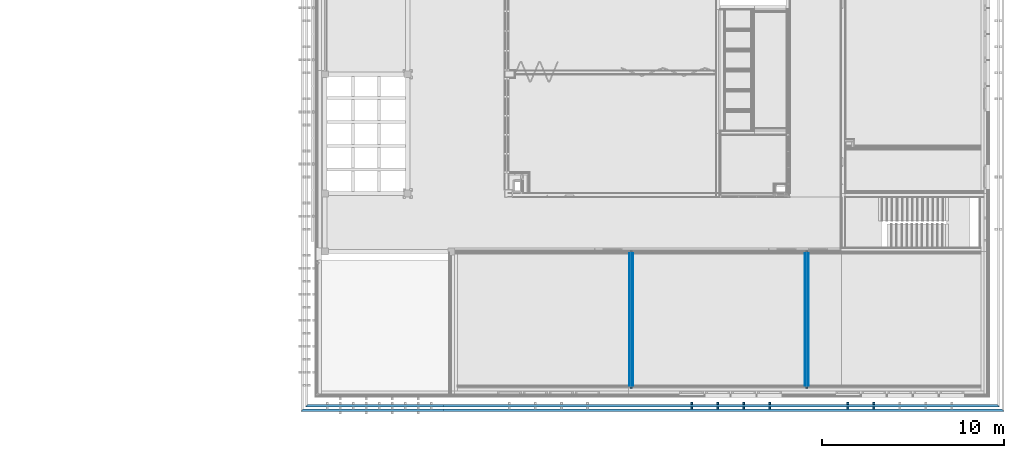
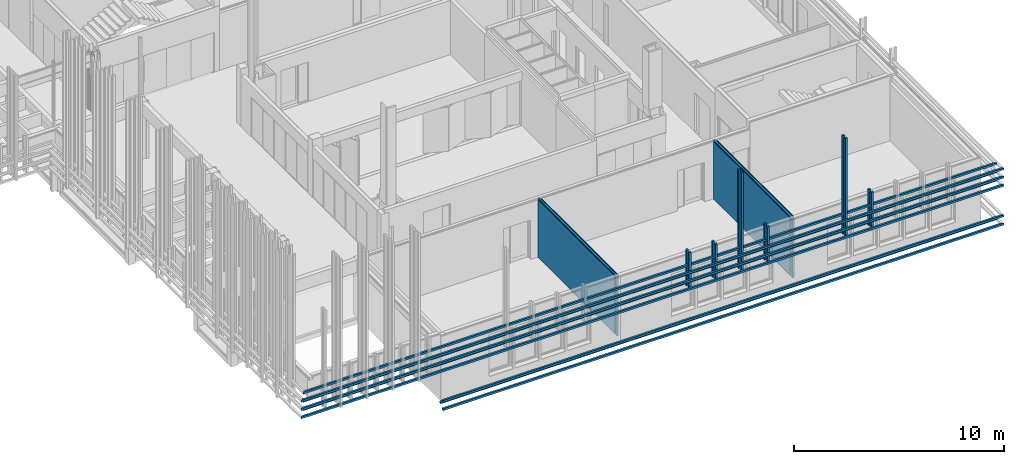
# One storey, part 107 of 139: 18 building element parts, 11 discrete accessories, 2 elements without a shape of their own.
"""IFC2X3 building model written with IfcOpenShell, lengths in millimetres."""

from ifc_helpers import new_model, entity, si_unit, converted_unit, derived_unit, money_unit, direction, frame, origin_with_axes, place, context, subcontext, project, spatial, faceted_brep, material, material_list, type_object, element, aggregate, save


model = new_model("IFC2X3")

# Units and contexts
model_context = context("Model", 3, precision=0.01, world=origin_with_axes(), true_north=direction((0.0, 1.0)))
body_context = subcontext(model_context, "Body", "Model", "MODEL_VIEW")
ifc_project = project(units=[si_unit("LENGTHUNIT", "METRE", prefix="MILLI"), si_unit("AREAUNIT", "SQUARE_METRE"), si_unit("VOLUMEUNIT", "CUBIC_METRE"), converted_unit("PLANEANGLEUNIT", "DEGREE", entity("IfcPlaneAngleMeasure", 0.0174532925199), si_unit("PLANEANGLEUNIT", "RADIAN"), dimensions=[0, 0, 0, 0, 0, 0, 0]), money_unit("EUR"), converted_unit("TIMEUNIT", "Year", entity("IfcTimeMeasure", 31556926.0), si_unit("TIMEUNIT", "SECOND"), dimensions=[0, 0, 1, 0, 0, 0, 0]), si_unit("MASSUNIT", "GRAM", prefix="KILO"), si_unit("THERMODYNAMICTEMPERATUREUNIT", "DEGREE_CELSIUS"), si_unit("LUMINOUSINTENSITYUNIT", "LUMEN"), si_unit("ENERGYUNIT", "JOULE", prefix="MEGA"), derived_unit("THERMALCONDUCTANCEUNIT", [(si_unit("POWERUNIT", "WATT"), 1), (si_unit("LENGTHUNIT", "METRE"), -1), (si_unit("THERMODYNAMICTEMPERATUREUNIT", "KELVIN"), -1)]), derived_unit("SPECIFICHEATCAPACITYUNIT", [(si_unit("ENERGYUNIT", "JOULE"), 1), (si_unit("MASSUNIT", "GRAM", prefix="KILO"), -1), (si_unit("THERMODYNAMICTEMPERATUREUNIT", "KELVIN"), -1)]), derived_unit("MASSDENSITYUNIT", [(si_unit("MASSUNIT", "GRAM", prefix="KILO"), 1), (si_unit("VOLUMEUNIT", "CUBIC_METRE"), -1)])], contexts=[model_context])

# Site, building, storey
site_placement = place(None, origin_with_axes())
site = spatial("IfcSite", under=ifc_project, at=site_placement, Name="Kolde pst 67a", CompositionType="ELEMENT")
building_placement = place(site_placement, origin_with_axes())
building = spatial("IfcBuilding", under=site, at=building_placement, Name="Riigigümnaasium", CompositionType="ELEMENT")
storey_placement = place(building_placement, frame((0.0, 0.0, 4600.0), z_axis=(0.0, 0.0, 1.0), x_axis=(1.0, 0.0, 0.0)))
storey = spatial("IfcBuildingStorey", under=building, at=storey_placement, Name="2. korrus", CompositionType="ELEMENT", Elevation=4600.0)

# Discrete accessories
ifc_material_1 = material(Name="_VÄLISVIIMISTLUS - sõrmjätkatud puitprussid 120x115mm, liitekohad vähemärgatavad, Platowood sõrmjätkatud kuusk või samaväärne; eeltöödeldud tuletõkkevõõbaga, tuletundlikkus B-s1, d0, Woodsafe Exterior WFX™ või samaväärne; kinnitused vastavalt EK osale")
ifc_material_list = material_list([ifc_material_1, ifc_material_1])
discrete_accessory_type_1 = type_object("IfcDiscreteAccessoryType", Name="1+paiksekaitse 4 tk nihkes 2 370 x 355")
discrete_accessory_1_placement = place(storey_placement, frame((47675.0262866, -325.000899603, 3110.0), z_axis=(0.0, 0.0, 1.0), x_axis=(4.18719809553e-07, -1.0, 0.0)))
element("IfcDiscreteAccessory", 1, at=discrete_accessory_1_placement, inside=storey, type_object=discrete_accessory_type_1, material=ifc_material_list, Name="Päikesevarjestus", context=body_context, shape_type="Brep", body=[
    faceted_brep([(375.0, 37505.0148804, 347.001360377), (375.0, -374.999488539, 347.001360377), (495.0, -494.999324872, 357.5), (495.0, 37625.0148154, 357.5), (375.0, 37505.0148804, 242.5), (375.0, -374.999488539, 242.5), (495.0, -494.999324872, 242.5), (495.0, 37625.0148154, 242.5)], [[[0, 1, 2, 3]], [[4, 5, 1, 0]], [[5, 6, 2, 1]], [[3, 2, 6, 7]], [[4, 0, 3, 7]], [[7, 6, 5, 4]]]),
    faceted_brep([(625.0, 37755.0147449, 107.001360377), (625.0, -624.999147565, 107.001360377), (745.0, -744.998983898, 117.5), (745.0, 37875.0146799, 117.5), (625.0, 37755.0147449, 2.5), (625.0, -624.999147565, 2.5), (745.0, -744.998983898, 2.5), (745.0, 37875.0146799, 2.5)], [[[0, 1, 2, 3]], [[4, 5, 1, 0]], [[5, 6, 2, 1]], [[3, 2, 6, 7]], [[4, 0, 3, 7]], [[7, 6, 5, 4]]]),
])
discrete_accessory_2_placement = place(storey_placement, frame((54739.1301946, -325.005231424, -100.0), z_axis=(0.0, 0.0, 1.0), x_axis=(2.51660926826e-07, -1.0, 0.0)))
element("IfcDiscreteAccessory", 2, at=discrete_accessory_2_placement, inside=storey, type_object=discrete_accessory_type_1, material=ifc_material_list, Name="Päikesevarjestus", context=body_context, shape_type="Brep", body=[
    faceted_brep([(375.0, 30440.911035, 347.001360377), (375.0, 0.0, 347.001360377), (495.0, 0.0, 357.5), (495.0, 30560.9109901, 357.5), (375.0, 30440.911035, 242.5), (375.0, 0.0, 242.5), (495.0, 0.0, 242.5), (495.0, 30560.9109901, 242.5)], [[[0, 1, 2, 3]], [[4, 5, 1, 0]], [[5, 6, 2, 1]], [[3, 2, 6, 7]], [[4, 0, 3, 7]], [[7, 6, 5, 4]]]),
    faceted_brep([(625.0, 30690.9109413, 107.001360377), (625.0, 0.0, 107.001360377), (745.0, 0.0, 117.5), (745.0, 30810.9108963, 117.5), (625.0, 30690.9109413, 2.5), (625.0, 0.0, 2.5), (745.0, 0.0, 2.5), (745.0, 30810.9108963, 2.5)], [[[0, 1, 2, 3]], [[4, 5, 1, 0]], [[5, 6, 2, 1]], [[3, 2, 6, 7]], [[4, 0, 3, 7]], [[7, 6, 5, 4]]]),
])
discrete_accessory_3_placement = place(storey_placement, frame((47675.0262866, -325.000899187, 2630.0), z_axis=(0.0, 0.0, 1.0), x_axis=(4.06850321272e-07, -1.0, 0.0)))
element("IfcDiscreteAccessory", 3, at=discrete_accessory_3_placement, inside=storey, type_object=discrete_accessory_type_1, material=ifc_material_list, Name="Päikesevarjestus", context=body_context, shape_type="Brep", body=[
    faceted_brep([(375.0, 37505.0148849, 347.001360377), (375.0, -374.999484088, 347.001360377), (495.0, -494.999318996, 357.5), (495.0, 37625.0148212, 357.5), (375.0, 37505.0148849, 242.5), (375.0, -374.999484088, 242.5), (495.0, -494.999318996, 242.5), (495.0, 37625.0148212, 242.5)], [[[0, 1, 2, 3]], [[4, 5, 1, 0]], [[5, 6, 2, 1]], [[3, 2, 6, 7]], [[4, 0, 3, 7]], [[7, 6, 5, 4]]]),
    faceted_brep([(625.0, 37755.0147523, 107.001360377), (625.0, -624.999140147, 107.001360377), (745.0, -744.998975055, 117.5), (745.0, 37875.0146887, 117.5), (625.0, 37755.0147523, 2.5), (625.0, -624.999140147, 2.5), (745.0, -744.998975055, 2.5), (745.0, 37875.0146887, 2.5)], [[[0, 1, 2, 3]], [[4, 5, 1, 0]], [[5, 6, 2, 1]], [[3, 2, 6, 7]], [[4, 0, 3, 7]], [[7, 6, 5, 4]]]),
])
discrete_accessory_4_placement = place(storey_placement, frame((47675.0262866, -325.000899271, 2150.0), z_axis=(0.0, 0.0, 1.0), x_axis=(4.06852575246e-07, -1.0, 0.0)))
element("IfcDiscreteAccessory", 4, at=discrete_accessory_4_placement, inside=storey, type_object=discrete_accessory_type_1, material=ifc_material_list, Name="Päikesevarjestus", context=body_context, shape_type="Brep", body=[
    faceted_brep([(375.0, 37505.0148849, 347.001360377), (375.0, -374.999484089, 347.001360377), (495.0, -494.999318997, 357.5), (495.0, 37625.0148212, 357.5), (375.0, 37505.0148849, 242.5), (375.0, -374.999484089, 242.5), (495.0, -494.999318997, 242.5), (495.0, 37625.0148212, 242.5)], [[[0, 1, 2, 3]], [[4, 5, 1, 0]], [[5, 6, 2, 1]], [[3, 2, 6, 7]], [[4, 0, 3, 7]], [[7, 6, 5, 4]]]),
    faceted_brep([(625.0, 37755.0147523, 107.001360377), (625.0, -624.999140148, 107.001360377), (745.0, -744.998975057, 117.5), (745.0, 37875.0146887, 117.5), (625.0, 37755.0147523, 2.5), (625.0, -624.999140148, 2.5), (745.0, -744.998975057, 2.5), (745.0, 37875.0146887, 2.5)], [[[0, 1, 2, 3]], [[4, 5, 1, 0]], [[5, 6, 2, 1]], [[3, 2, 6, 7]], [[4, 0, 3, 7]], [[7, 6, 5, 4]]]),
])
discrete_accessory_type_2 = type_object("IfcDiscreteAccessoryType", Name="1+paiksekaitse 3 370 x 115")
discrete_accessory_5_placement = place(storey_placement, frame((68444.137687, -1292.00007473, 2150.0), z_axis=(0.0, 0.0, 1.0), x_axis=(0.0, 1.0, 0.0)))
element("IfcDiscreteAccessory", 5, at=discrete_accessory_5_placement, inside=storey, type_object=discrete_accessory_type_2, material=ifc_material_list, Name="Päikesevarjestus", context=body_context, shape_type="Brep", body=[
    faceted_brep([(467.0, 117.5, 0.0), (347.0, 117.5, 0.0), (347.0, 117.5, 2090.0), (467.0, 117.5, 2090.0), (467.0, 2.5, 0.0), (347.0, 2.5, 0.0), (347.0, 2.5, 2090.0), (467.0, 2.5, 2090.0)], [[[0, 1, 2, 3]], [[0, 4, 5, 1]], [[1, 5, 6, 2]], [[3, 2, 6, 7]], [[4, 0, 3, 7]], [[5, 4, 7, 6]]]),
    faceted_brep([(717.0, 117.5, 0.0), (597.0, 117.5, 0.0), (597.0, 117.5, 2090.0), (717.0, 117.5, 2090.0), (717.0, 2.50000000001, 0.0), (597.0, 2.50000000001, 0.0), (597.0, 2.50000000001, 2090.0), (717.0, 2.50000000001, 2090.0)], [[[0, 1, 2, 3]], [[0, 4, 5, 1]], [[1, 5, 6, 2]], [[3, 2, 6, 7]], [[4, 0, 3, 7]], [[5, 4, 7, 6]]]),
])
for number, where, z_axis, x_axis in (
    (6, (71304.1376291, -1292.00007473, 2150.0), (0.0, 0.0, 1.0), (0.0, 1.0, 0.0)),
    (7, (77024.1377115, -1292.0038668, 2150.0), (0.0, 0.0, 1.0), (0.0, 1.0, 0.0)),
):
    element("IfcDiscreteAccessory", number, at=place(storey_placement, frame(where, z_axis=z_axis, x_axis=x_axis)), inside=storey, type_object=discrete_accessory_type_2, material=ifc_material_list, Name="Päikesevarjestus", context=body_context, shape_type="Brep", body=[
        faceted_brep([(467.0, 117.5, 0.0), (347.0, 117.5, 0.0), (347.0, 117.5, 5727.5), (467.0, 117.5, 5727.5), (467.0, 2.5, 0.0), (347.0, 2.5, 0.0), (347.0, 2.5, 5727.5), (467.0, 2.5, 5727.5)], [[[0, 1, 2, 3]], [[0, 4, 5, 1]], [[1, 5, 6, 2]], [[3, 2, 6, 7]], [[4, 0, 3, 7]], [[5, 4, 7, 6]]]),
        faceted_brep([(717.0, 117.5, 0.0), (597.0, 117.5, 0.0), (597.0, 117.5, 5727.5), (717.0, 117.5, 5727.5), (717.0, 2.50000000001, 0.0), (597.0, 2.50000000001, 0.0), (597.0, 2.50000000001, 5727.5), (717.0, 2.50000000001, 5727.5)], [[[0, 1, 2, 3]], [[0, 4, 5, 1]], [[1, 5, 6, 2]], [[3, 2, 6, 7]], [[4, 0, 3, 7]], [[5, 4, 7, 6]]]),
    ])
for number, where, z_axis, x_axis in (
    (8, (72735.0448369, -1292.00007473, 2150.0), (0.0, 0.0, 1.0), (0.0, 1.0, 0.0)),
    (9, (78455.0231689, -1292.00007473, 2150.0), (0.0, 0.0, 1.0), (0.0, 1.0, 0.0)),
    (10, (69874.1301014, -1292.00007473, 2150.0), (0.0, 0.0, 1.0), (0.0, 1.0, 0.0)),
):
    element("IfcDiscreteAccessory", number, at=place(storey_placement, frame(where, z_axis=z_axis, x_axis=x_axis)), inside=storey, type_object=discrete_accessory_type_2, material=ifc_material_list, Name="Päikesevarjestus", context=body_context, shape_type="Brep", body=[
        faceted_brep([(467.0, 117.5, 0.0), (347.0, 117.5, 0.0), (347.0, 117.5, 2090.0), (467.0, 117.5, 2090.0), (467.0, 2.5, 0.0), (347.0, 2.5, 0.0), (347.0, 2.5, 2090.0), (467.0, 2.5, 2090.0)], [[[0, 1, 2, 3]], [[0, 4, 5, 1]], [[1, 5, 6, 2]], [[3, 2, 6, 7]], [[4, 0, 3, 7]], [[5, 4, 7, 6]]]),
        faceted_brep([(717.0, 117.5, 0.0), (597.0, 117.5, 0.0), (597.0, 117.5, 2090.0), (717.0, 117.5, 2090.0), (717.0, 2.50000000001, 0.0), (597.0, 2.50000000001, 0.0), (597.0, 2.50000000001, 2090.0), (717.0, 2.50000000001, 2090.0)], [[[0, 1, 2, 3]], [[0, 4, 5, 1]], [[1, 5, 6, 2]], [[3, 2, 6, 7]], [[4, 0, 3, 7]], [[5, 4, 7, 6]]]),
    ])
discrete_accessory_type_3 = type_object("IfcDiscreteAccessoryType", Name="1+paiksekaitse 4 tk nihkes 1 120 x 115")
discrete_accessory_6_placement = place(storey_placement, frame((54739.1301946, -325.005231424, 380.0), z_axis=(0.0, 0.0, 1.0), x_axis=(5.29404606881e-07, -1.0, 0.0)))
element("IfcDiscreteAccessory", 11, at=discrete_accessory_6_placement, inside=storey, type_object=discrete_accessory_type_3, material=ifc_material_1, Name="Päikesevarjestus", context=body_context, shape_type="Brep", body=[
    faceted_brep([(745.0, 30810.9106894, 117.5), (625.0, 30690.9107677, 107.001360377), (625.0, 0.0, 107.001360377), (745.0, 0.0, 117.5), (745.0, 30810.9106894, 2.5), (625.0, 30690.9107677, 2.5), (625.0, 0.0, 2.5), (745.0, 0.0, 2.5)], [[[0, 1, 2, 3]], [[4, 5, 1, 0]], [[1, 5, 6, 2]], [[2, 6, 7, 3]], [[4, 0, 3, 7]], [[5, 4, 7, 6]]]),
])

# Wall, building element parts
wall_type = type_object("IfcWallType", Name="SS-PK-10/4_vill100+2värv distantsliistudega 220", PredefinedType="NOTDEFINED")
wall_1_placement = place(storey_placement, frame((65169.9993279, 7900.0, -130.0), z_axis=(0.0, 0.0, 1.0), x_axis=(0.0, -1.0, 0.0)))
wall_1 = element("IfcWall", 12, at=wall_1_placement, inside=storey, type_object=wall_type, Name="Sisesein")
ifc_material_2 = material(Name="_VIIMISTLUSKIHT - viimistlus vastavalt SA osale")
building_element_part_1_placement = place(wall_1_placement, origin_with_axes())
building_element_part_1 = element("IfcBuildingElementPart", 13, at=building_element_part_1_placement, material=ifc_material_2, Name="_VIIMISTLUSKIHT - viimistlus vastavalt SA osale", context=body_context, shape_type="Brep", body=[
    faceted_brep([(300.0, -5.0, 3450.0), (300.0, 0.0, 3450.0), (300.0, 0.0, 130.0), (300.0, -5.0, 130.0), (7570.0, 0.0, 3450.0), (7570.0, -5.0, 3450.0), (7570.0, 0.0, 130.0), (7570.0, -5.0, 130.0)], [[[0, 1, 2, 3]], [[4, 1, 0, 5]], [[1, 4, 6, 2]], [[3, 2, 6, 7]], [[5, 0, 3, 7]], [[4, 5, 7, 6]]]),
])
ifc_material_3 = material(Name="_PLAATMATERJAL - tuletõkkekipsplaat, Knauf Red GKF või samaväärne")
building_element_part_2_placement = place(wall_1_placement, origin_with_axes())
building_element_part_2 = element("IfcBuildingElementPart", 14, at=building_element_part_2_placement, material=ifc_material_3, Name="_PLAATMATERJAL - tuletõkkekipsplaat, Knauf Red GKF või samaväärne", context=body_context, shape_type="Brep", body=[
    faceted_brep([(290.0, -20.0, 3450.0), (290.0, -5.0, 3450.0), (290.0, -5.0, 127.0), (290.0, -20.0, 127.0), (7570.0, -5.0, 3450.0), (7570.0, -20.0, 3450.0), (7570.0, -5.0, 127.0), (7570.0, -20.0, 127.0)], [[[0, 1, 2, 3]], [[4, 1, 0, 5]], [[1, 4, 6, 2]], [[3, 2, 6, 7]], [[5, 0, 3, 7]], [[4, 5, 7, 6]]]),
])
ifc_material_4 = material(Name="_PLAATMATERJAL - OSB3 plaat")
building_element_part_3_placement = place(wall_1_placement, origin_with_axes())
building_element_part_3 = element("IfcBuildingElementPart", 15, at=building_element_part_3_placement, material=ifc_material_4, Name="_PLAATMATERJAL - OSB3 plaat", context=body_context, shape_type="Brep", body=[
    faceted_brep([(275.0, -35.0, 3450.0), (275.0, -20.0, 3450.0), (275.0, -20.0, 127.0), (275.0, -35.0, 127.0), (7570.0, -20.0, 3450.0), (7570.0, -35.0, 3450.0), (7570.0, -20.0, 127.0), (7570.0, -35.0, 127.0)], [[[0, 1, 2, 3]], [[4, 1, 0, 5]], [[1, 4, 6, 2]], [[3, 2, 6, 7]], [[5, 0, 3, 7]], [[4, 5, 7, 6]]]),
])
ifc_material_5 = material(Name="_KARKASS- distantasliist")
building_element_part_4_placement = place(wall_1_placement, origin_with_axes())
building_element_part_4 = element("IfcBuildingElementPart", 16, at=building_element_part_4_placement, material=ifc_material_5, Name="_KARKASS- distantasliist", context=body_context, shape_type="Brep", body=[
    faceted_brep([(275.0, -60.0, 3450.0), (275.0, -35.0, 3450.0), (275.0, -35.0, 127.0), (275.0, -60.0, 127.0), (7570.0, -35.0, 3450.0), (7570.0, -60.0, 3450.0), (7570.0, -35.0, 127.0), (7570.0, -60.0, 127.0)], [[[0, 1, 2, 3]], [[4, 1, 0, 5]], [[1, 4, 6, 2]], [[3, 2, 6, 7]], [[5, 0, 3, 7]], [[4, 5, 7, 6]]]),
])
ifc_material_6 = material(Name="_KARKASS - puitpruss 100x50mm vertikaalne, samm 600mm, vahel mineraalvill, helineeldetegur αw = 1.0, ISOVER ACOUSTIC 100mm või samaväärne")
building_element_part_5_placement = place(wall_1_placement, origin_with_axes())
building_element_part_5 = element("IfcBuildingElementPart", 17, at=building_element_part_5_placement, material=ifc_material_6, Name="_KARKASS - puitpruss 100x50mm vertikaalne, samm 600mm, vahel mineraalvill, helineeldetegur αw = 1.0, ISOVER ACOUSTIC 100mm või samaväärne", context=body_context, shape_type="Brep", body=[
    faceted_brep([(160.0, -160.0, 3450.0), (160.0, -60.0, 3450.0), (160.0, -60.0, 0.0), (160.0, -160.0, 0.0), (7700.0, -60.0, 3450.0), (7700.0, -160.0, 3450.0), (7700.0, -60.0, 0.0), (7700.0, -160.0, 0.0)], [[[0, 1, 2, 3]], [[4, 1, 0, 5]], [[1, 4, 6, 2]], [[6, 7, 3, 2]], [[5, 0, 3, 7]], [[4, 5, 7, 6]]]),
])
building_element_part_6_placement = place(wall_1_placement, origin_with_axes())
building_element_part_6 = element("IfcBuildingElementPart", 18, at=building_element_part_6_placement, material=ifc_material_5, Name="_KARKASS- distantasliist", context=body_context, shape_type="Brep", body=[
    faceted_brep([(275.0, -185.0, 3450.0), (275.0, -160.0, 3450.0), (275.0, -160.0, 127.0), (275.0, -185.0, 127.0), (7570.0, -160.0, 3450.0), (7570.0, -185.0, 3450.0), (7570.0, -160.0, 127.0), (7570.0, -185.0, 127.0)], [[[0, 1, 2, 3]], [[4, 1, 0, 5]], [[1, 4, 6, 2]], [[3, 2, 6, 7]], [[5, 0, 3, 7]], [[4, 5, 7, 6]]]),
])
building_element_part_7_placement = place(wall_1_placement, origin_with_axes())
building_element_part_7 = element("IfcBuildingElementPart", 19, at=building_element_part_7_placement, material=ifc_material_4, Name="_PLAATMATERJAL - OSB3 plaat", context=body_context, shape_type="Brep", body=[
    faceted_brep([(275.0, -200.0, 3450.0), (275.0, -185.0, 3450.0), (275.0, -185.0, 127.0), (275.0, -200.0, 127.0), (7570.0, -185.0, 3450.0), (7570.0, -200.0, 3450.0), (7570.0, -185.0, 127.0), (7570.0, -200.0, 127.0)], [[[0, 1, 2, 3]], [[4, 1, 0, 5]], [[1, 4, 6, 2]], [[3, 2, 6, 7]], [[5, 0, 3, 7]], [[4, 5, 7, 6]]]),
])
building_element_part_8_placement = place(wall_1_placement, origin_with_axes())
building_element_part_8 = element("IfcBuildingElementPart", 20, at=building_element_part_8_placement, material=ifc_material_3, Name="_PLAATMATERJAL - tuletõkkekipsplaat, Knauf Red GKF või samaväärne", context=body_context, shape_type="Brep", body=[
    faceted_brep([(290.0, -215.0, 3450.0), (290.0, -200.0, 3450.0), (290.0, -200.0, 127.0), (290.0, -215.0, 127.0), (7570.0, -200.0, 3450.0), (7570.0, -215.0, 3450.0), (7570.0, -200.0, 127.0), (7570.0, -215.0, 127.0)], [[[0, 1, 2, 3]], [[4, 1, 0, 5]], [[1, 4, 6, 2]], [[3, 2, 6, 7]], [[5, 0, 3, 7]], [[4, 5, 7, 6]]]),
])
building_element_part_9_placement = place(wall_1_placement, origin_with_axes())
building_element_part_9 = element("IfcBuildingElementPart", 21, at=building_element_part_9_placement, material=ifc_material_2, Name="_VIIMISTLUSKIHT - viimistlus vastavalt SA osale", context=body_context, shape_type="Brep", body=[
    faceted_brep([(300.0, -220.0, 3450.0), (300.0, -215.0, 3450.0), (300.0, -215.0, 130.0), (300.0, -220.0, 130.0), (7570.0, -215.0, 3450.0), (7570.0, -220.0, 3450.0), (7570.0, -215.0, 130.0), (7570.0, -220.0, 130.0)], [[[0, 1, 2, 3]], [[4, 1, 0, 5]], [[1, 4, 6, 2]], [[3, 2, 6, 7]], [[5, 0, 3, 7]], [[4, 5, 7, 6]]]),
])
aggregate(wall_1, [building_element_part_1, building_element_part_2, building_element_part_3, building_element_part_4, building_element_part_5, building_element_part_6, building_element_part_7, building_element_part_8, building_element_part_9])

wall_2_placement = place(storey_placement, frame((74819.9993279, 7900.0, -130.0), z_axis=(0.0, 0.0, 1.0), x_axis=(0.0, -1.0, 0.0)))
wall_2 = element("IfcWall", 22, at=wall_2_placement, inside=storey, type_object=wall_type, Name="Sisesein")
building_element_part_10_placement = place(wall_2_placement, origin_with_axes())
building_element_part_10 = element("IfcBuildingElementPart", 23, at=building_element_part_10_placement, material=ifc_material_2, Name="_VIIMISTLUSKIHT - viimistlus vastavalt SA osale", context=body_context, shape_type="Brep", body=[
    faceted_brep([(300.0, -5.0, 130.0), (300.0, -5.0, 3450.0), (300.0, 0.0, 3450.0), (300.0, 0.0, 130.0), (7570.0, -5.0, 130.0), (7570.0, -5.0, 3450.0), (7570.0, 0.0, 3450.0), (7570.0, 0.0, 130.0)], [[[0, 1, 2, 3]], [[4, 5, 1, 0]], [[5, 6, 2, 1]], [[3, 2, 6, 7]], [[4, 0, 3, 7]], [[7, 6, 5, 4]]]),
])
building_element_part_11_placement = place(wall_2_placement, origin_with_axes())
building_element_part_11 = element("IfcBuildingElementPart", 24, at=building_element_part_11_placement, material=ifc_material_3, Name="_PLAATMATERJAL - tuletõkkekipsplaat, Knauf Red GKF või samaväärne", context=body_context, shape_type="Brep", body=[
    faceted_brep([(300.0, -5.0, 130.0), (300.0, -5.0, 2430.0), (290.0, -5.0, 2430.0), (290.0, -5.0, 3450.0), (7570.0, -5.0, 3450.0), (7570.0, -5.0, 127.0), (290.0, -5.0, 127.0), (290.0, -5.0, 130.0), (300.0, -9.99585671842, 130.0), (300.0, -9.99585671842, 2430.0), (290.0, -9.99585671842, 2430.0), (290.0, -9.99585671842, 130.0), (290.0, -20.0, 127.0), (290.0, -20.0, 3450.0), (7570.0, -20.0, 3450.0), (7570.0, -20.0, 127.0)], [[[0, 1, 2, 3, 4, 5, 6, 7]], [[1, 0, 8, 9]], [[10, 2, 1, 9]], [[11, 7, 6, 12, 13, 3, 2, 10]], [[14, 4, 3, 13]], [[5, 4, 14, 15]], [[15, 12, 6, 5]], [[0, 7, 11, 8]], [[11, 10, 9, 8]], [[15, 14, 13, 12]]]),
])
building_element_part_12_placement = place(wall_2_placement, origin_with_axes())
building_element_part_12 = element("IfcBuildingElementPart", 25, at=building_element_part_12_placement, material=ifc_material_4, Name="_PLAATMATERJAL - OSB3 plaat", context=body_context, shape_type="Brep", body=[
    faceted_brep([(275.0, -35.0, 3450.0), (275.0, -20.0, 3450.0), (275.0, -20.0, 127.0), (275.0, -35.0, 127.0), (7570.0, -20.0, 3450.0), (7570.0, -35.0, 3450.0), (7570.0, -20.0, 127.0), (7570.0, -35.0, 127.0)], [[[0, 1, 2, 3]], [[4, 1, 0, 5]], [[1, 4, 6, 2]], [[3, 2, 6, 7]], [[5, 0, 3, 7]], [[4, 5, 7, 6]]]),
])
building_element_part_13_placement = place(wall_2_placement, origin_with_axes())
building_element_part_13 = element("IfcBuildingElementPart", 26, at=building_element_part_13_placement, material=ifc_material_5, Name="_KARKASS- distantasliist", context=body_context, shape_type="Brep", body=[
    faceted_brep([(275.0, -60.0, 3450.0), (275.0, -35.0, 3450.0), (275.0, -35.0, 127.0), (275.0, -60.0, 127.0), (7570.0, -35.0, 3450.0), (7570.0, -60.0, 3450.0), (7570.0, -35.0, 127.0), (7570.0, -60.0, 127.0)], [[[0, 1, 2, 3]], [[4, 1, 0, 5]], [[1, 4, 6, 2]], [[3, 2, 6, 7]], [[5, 0, 3, 7]], [[4, 5, 7, 6]]]),
])
building_element_part_14_placement = place(wall_2_placement, origin_with_axes())
building_element_part_14 = element("IfcBuildingElementPart", 27, at=building_element_part_14_placement, material=ifc_material_6, Name="_KARKASS - puitpruss 100x50mm vertikaalne, samm 600mm, vahel mineraalvill, helineeldetegur αw = 1.0, ISOVER ACOUSTIC 100mm või samaväärne", context=body_context, shape_type="Brep", body=[
    faceted_brep([(160.0, -160.0, 3450.0), (160.0, -60.0, 3450.0), (160.0, -60.0, 0.0), (160.0, -160.0, 0.0), (7700.0, -60.0, 3450.0), (7700.0, -160.0, 3450.0), (7700.0, -60.0, 0.0), (7700.0, -160.0, 0.0)], [[[0, 1, 2, 3]], [[4, 1, 0, 5]], [[1, 4, 6, 2]], [[6, 7, 3, 2]], [[5, 0, 3, 7]], [[4, 5, 7, 6]]]),
])
building_element_part_15_placement = place(wall_2_placement, origin_with_axes())
building_element_part_15 = element("IfcBuildingElementPart", 28, at=building_element_part_15_placement, material=ifc_material_5, Name="_KARKASS- distantasliist", context=body_context, shape_type="Brep", body=[
    faceted_brep([(275.0, -185.0, 3450.0), (275.0, -160.0, 3450.0), (275.0, -160.0, 127.0), (275.0, -185.0, 127.0), (7570.0, -160.0, 3450.0), (7570.0, -185.0, 3450.0), (7570.0, -160.0, 127.0), (7570.0, -185.0, 127.0)], [[[0, 1, 2, 3]], [[4, 1, 0, 5]], [[1, 4, 6, 2]], [[3, 2, 6, 7]], [[5, 0, 3, 7]], [[4, 5, 7, 6]]]),
])
building_element_part_16_placement = place(wall_2_placement, origin_with_axes())
building_element_part_16 = element("IfcBuildingElementPart", 29, at=building_element_part_16_placement, material=ifc_material_4, Name="_PLAATMATERJAL - OSB3 plaat", context=body_context, shape_type="Brep", body=[
    faceted_brep([(275.0, -200.0, 3450.0), (275.0, -185.0, 3450.0), (275.0, -185.0, 127.0), (275.0, -200.0, 127.0), (7570.0, -185.0, 3450.0), (7570.0, -200.0, 3450.0), (7570.0, -185.0, 127.0), (7570.0, -200.0, 127.0)], [[[0, 1, 2, 3]], [[4, 1, 0, 5]], [[1, 4, 6, 2]], [[3, 2, 6, 7]], [[5, 0, 3, 7]], [[4, 5, 7, 6]]]),
])
building_element_part_17_placement = place(wall_2_placement, origin_with_axes())
building_element_part_17 = element("IfcBuildingElementPart", 30, at=building_element_part_17_placement, material=ifc_material_3, Name="_PLAATMATERJAL - tuletõkkekipsplaat, Knauf Red GKF või samaväärne", context=body_context, shape_type="Brep", body=[
    faceted_brep([(290.0, -215.0, 3450.0), (290.0, -200.0, 3450.0), (290.0, -200.0, 127.0), (290.0, -215.0, 127.0), (7570.0, -200.0, 3450.0), (7570.0, -215.0, 3450.0), (7570.0, -200.0, 127.0), (7570.0, -215.0, 127.0)], [[[0, 1, 2, 3]], [[4, 1, 0, 5]], [[1, 4, 6, 2]], [[3, 2, 6, 7]], [[5, 0, 3, 7]], [[4, 5, 7, 6]]]),
])
building_element_part_18_placement = place(wall_2_placement, origin_with_axes())
building_element_part_18 = element("IfcBuildingElementPart", 31, at=building_element_part_18_placement, material=ifc_material_2, Name="_VIIMISTLUSKIHT - viimistlus vastavalt SA osale", context=body_context, shape_type="Brep", body=[
    faceted_brep([(300.0, -220.0, 3450.0), (300.0, -215.0, 3450.0), (300.0, -215.0, 130.0), (300.0, -220.0, 130.0), (7570.0, -215.0, 3450.0), (7570.0, -220.0, 3450.0), (7570.0, -215.0, 130.0), (7570.0, -220.0, 130.0)], [[[0, 1, 2, 3]], [[4, 1, 0, 5]], [[1, 4, 6, 2]], [[3, 2, 6, 7]], [[5, 0, 3, 7]], [[4, 5, 7, 6]]]),
])
aggregate(wall_2, [building_element_part_10, building_element_part_11, building_element_part_12, building_element_part_13, building_element_part_14, building_element_part_15, building_element_part_16, building_element_part_17, building_element_part_18])

save(model, "model.ifc")
